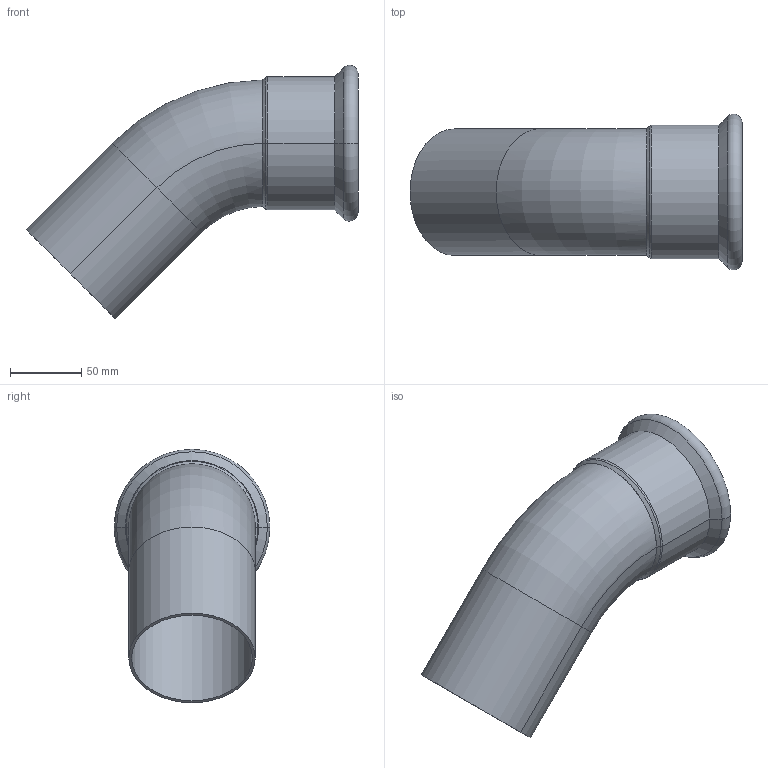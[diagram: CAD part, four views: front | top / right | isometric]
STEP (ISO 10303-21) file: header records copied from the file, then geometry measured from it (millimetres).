
FILE_DESCRIPTION(('CoCreate Modeling STEP Export'),'2;1');
FILE_NAME('C1412 88.9x88.9.stp','2014-11-11T16:45:30',(''),(''),'CoCreate Modeling STEP processor for AP214 (Solid Model)','CoCreate Modeling 17.00A 17-Jun-2010 (C) Parametric Technology GmbH','');
FILE_SCHEMA(('AUTOMOTIVE_DESIGN { 1 0 10303 214 1 1 1 1 }'));
Length unit declared in the file: millimetre
Products named in the file (2): C1412_89x89
Assembly tree (1 placements, depth 2):
  C1412_89x89
    C1412_89x89
Bounding box: 233.35 x 109.48 x 178.1 mm (x, y, z)
Volume: 160356.9 mm3; surface area: 135948.8 mm2
Topology: 1 solids, 1 shells, 31 faces, 68 edges, 41 vertices
Faces by surface type: cylinder 12, torus 8, plane 7, cone 4
Entity records: 2330 total; most frequent: CARTESIAN_POINT 1697, ORIENTED_EDGE 136, DIRECTION 106, EDGE_CURVE 68, AXIS2_PLACEMENT_3D 45, VERTEX_POINT 41, EDGE_LOOP 35, FACE_OUTER_BOUND 31
